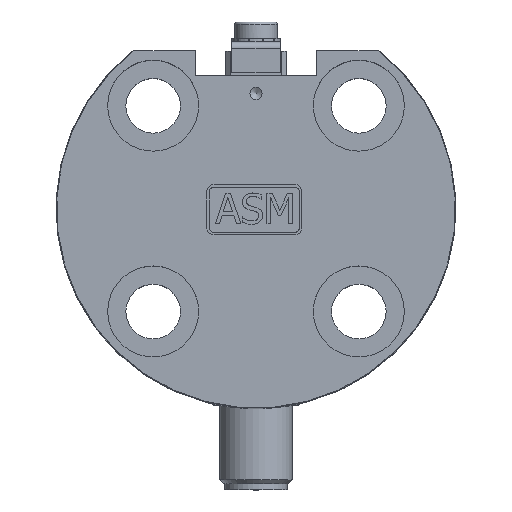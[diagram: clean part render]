
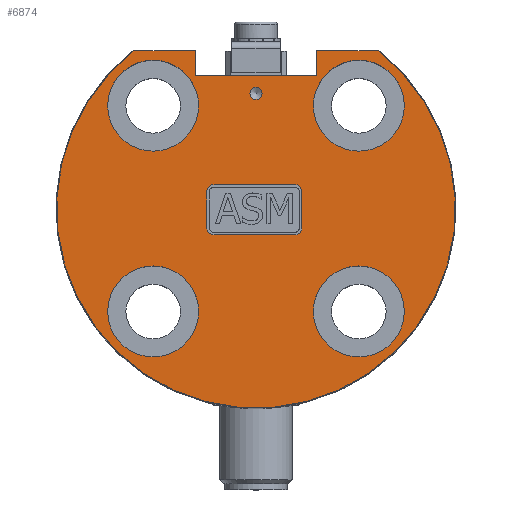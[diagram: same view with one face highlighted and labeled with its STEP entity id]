
A CAD part, top view. The second image highlights one B-rep face of the part: STEP entity #6874.
In plain terms, the highlighted planar face has unit normal (0, 0, 1).
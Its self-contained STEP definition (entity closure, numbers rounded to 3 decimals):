
#1650=CARTESIAN_POINT('',(-1.,19.0,23.));
#1651=VERTEX_POINT('',#1650);
#1652=CARTESIAN_POINT('',(0.,19.0,23.));
#1653=DIRECTION('',(0.0,0.0,1.0));
#1654=DIRECTION('',(1.0,0.0,0.0));
#1655=AXIS2_PLACEMENT_3D('',#1652,#1653,#1654);
#1656=CIRCLE('',#1655,1.0);
#1657=EDGE_CURVE('',#1651,#1651,#1656,.T.);
#1892=CARTESIAN_POINT('',(-10.0,26.0,23.));
#1893=VERTEX_POINT('',#1892);
#1900=CARTESIAN_POINT('',(-10.0,22.0,23.));
#1901=VERTEX_POINT('',#1900);
#1902=CARTESIAN_POINT('',(-10.0,26.0,23.));
#1903=DIRECTION('',(0.0,-1.0,0.0));
#1904=VECTOR('',#1903,4.0);
#1905=LINE('',#1902,#1904);
#1906=EDGE_CURVE('',#1893,#1901,#1905,.T.);
#1971=CARTESIAN_POINT('',(10.,22.0,23.));
#1972=VERTEX_POINT('',#1971);
#1979=CARTESIAN_POINT('',(10.,26.0,23.));
#1980=VERTEX_POINT('',#1979);
#1981=CARTESIAN_POINT('',(10.,22.0,23.));
#1982=DIRECTION('',(0.0,1.0,0.0));
#1983=VECTOR('',#1982,4.0);
#1984=LINE('',#1981,#1983);
#1985=EDGE_CURVE('',#1972,#1980,#1984,.T.);
#2010=CARTESIAN_POINT('',(-10.0,22.0,23.));
#2011=DIRECTION('',(1.0,0.0,0.0));
#2012=VECTOR('',#2011,20.0);
#2013=LINE('',#2010,#2012);
#2014=EDGE_CURVE('',#1901,#1972,#2013,.T.);
#2331=CARTESIAN_POINT('',(16.971,-9.471,23.));
#2332=VERTEX_POINT('',#2331);
#2333=CARTESIAN_POINT('',(16.971,-16.971,23.));
#2334=DIRECTION('',(0.0,0.0,1.0));
#2335=DIRECTION('',(0.0,-1.0,0.0));
#2336=AXIS2_PLACEMENT_3D('',#2333,#2334,#2335);
#2337=CIRCLE('',#2336,7.5);
#2338=EDGE_CURVE('',#2332,#2332,#2337,.T.);
#2433=CARTESIAN_POINT('',(-9.471,-16.971,23.));
#2434=VERTEX_POINT('',#2433);
#2435=CARTESIAN_POINT('',(-16.971,-16.971,23.));
#2436=DIRECTION('',(0.0,0.0,1.0));
#2437=DIRECTION('',(-1.0,0.0,0.0));
#2438=AXIS2_PLACEMENT_3D('',#2435,#2436,#2437);
#2439=CIRCLE('',#2438,7.5);
#2440=EDGE_CURVE('',#2434,#2434,#2439,.T.);
#2535=CARTESIAN_POINT('',(-16.971,9.471,23.));
#2536=VERTEX_POINT('',#2535);
#2537=CARTESIAN_POINT('',(-16.971,16.971,23.));
#2538=DIRECTION('',(0.0,0.0,1.0));
#2539=DIRECTION('',(0.0,1.0,0.0));
#2540=AXIS2_PLACEMENT_3D('',#2537,#2538,#2539);
#2541=CIRCLE('',#2540,7.5);
#2542=EDGE_CURVE('',#2536,#2536,#2541,.T.);
#2637=CARTESIAN_POINT('',(9.471,16.971,23.));
#2638=VERTEX_POINT('',#2637);
#2639=CARTESIAN_POINT('',(16.971,16.971,23.));
#2640=DIRECTION('',(0.0,0.0,1.0));
#2641=DIRECTION('',(1.0,0.0,0.0));
#2642=AXIS2_PLACEMENT_3D('',#2639,#2640,#2641);
#2643=CIRCLE('',#2642,7.5);
#2644=EDGE_CURVE('',#2638,#2638,#2643,.T.);
#6663=CARTESIAN_POINT('',(20.16,26.,23.));
#6664=VERTEX_POINT('',#6663);
#6680=CARTESIAN_POINT('',(20.16,26.,23.));
#6681=DIRECTION('',(-1.0,0.0,0.0));
#6682=VECTOR('',#6681,10.16);
#6683=LINE('',#6680,#6682);
#6684=EDGE_CURVE('',#6664,#1980,#6683,.T.);
#6728=CARTESIAN_POINT('',(-20.16,26.,23.));
#6729=VERTEX_POINT('',#6728);
#6736=CARTESIAN_POINT('',(-10.0,26.0,23.));
#6737=DIRECTION('',(-1.0,0.0,0.0));
#6738=VECTOR('',#6737,10.16);
#6739=LINE('',#6736,#6738);
#6740=EDGE_CURVE('',#1893,#6729,#6739,.T.);
#6765=CARTESIAN_POINT('',(0.,0.,23.));
#6766=DIRECTION('',(0.,0.,1.0));
#6767=DIRECTION('',(0.613,-0.79,0.));
#6768=AXIS2_PLACEMENT_3D('',#6765,#6766,#6767);
#6769=CIRCLE('',#6768,32.9);
#6770=EDGE_CURVE('',#6729,#6664,#6769,.T.);
#6776=CARTESIAN_POINT('',(36.375,26.0,23.));
#6777=DIRECTION('',(0.0,0.0,-1.0));
#6778=DIRECTION('',(-1.0,0.0,0.0));
#6779=AXIS2_PLACEMENT_3D('',#6776,#6777,#6778);
#6780=PLANE('',#6779);
#6781=ORIENTED_EDGE('',*,*,#6770,.T.);
#6782=ORIENTED_EDGE('',*,*,#6684,.T.);
#6783=ORIENTED_EDGE('',*,*,#1985,.F.);
#6784=ORIENTED_EDGE('',*,*,#2014,.F.);
#6785=ORIENTED_EDGE('',*,*,#1906,.F.);
#6786=ORIENTED_EDGE('',*,*,#6740,.T.);
#6787=EDGE_LOOP('',(#6781,#6782,#6783,#6784,#6785,#6786));
#6788=FACE_OUTER_BOUND('',#6787,.T.);
#6789=ORIENTED_EDGE('',*,*,#1657,.F.);
#6790=EDGE_LOOP('',(#6789));
#6791=FACE_BOUND('',#6790,.T.);
#6792=ORIENTED_EDGE('',*,*,#2338,.F.);
#6793=EDGE_LOOP('',(#6792));
#6794=FACE_BOUND('',#6793,.T.);
#6795=ORIENTED_EDGE('',*,*,#2440,.F.);
#6796=EDGE_LOOP('',(#6795));
#6797=FACE_BOUND('',#6796,.T.);
#6798=ORIENTED_EDGE('',*,*,#2542,.F.);
#6799=EDGE_LOOP('',(#6798));
#6800=FACE_BOUND('',#6799,.T.);
#6801=ORIENTED_EDGE('',*,*,#2644,.F.);
#6802=EDGE_LOOP('',(#6801));
#6803=FACE_BOUND('',#6802,.T.);
#6804=CARTESIAN_POINT('',(-8.126,-3.133,23.));
#6805=VERTEX_POINT('',#6804);
#6806=CARTESIAN_POINT('',(-8.126,2.758,23.));
#6807=VERTEX_POINT('',#6806);
#6808=CARTESIAN_POINT('',(-8.126,-3.133,23.));
#6809=DIRECTION('',(0.0,1.0,0.0));
#6810=VECTOR('',#6809,5.892);
#6811=LINE('',#6808,#6810);
#6812=EDGE_CURVE('',#6805,#6807,#6811,.T.);
#6813=ORIENTED_EDGE('',*,*,#6812,.T.);
#6814=CARTESIAN_POINT('',(-6.903,3.981,23.));
#6815=VERTEX_POINT('',#6814);
#6816=CARTESIAN_POINT('',(-6.903,2.758,23.));
#6817=DIRECTION('',(0.,0.,-1.0));
#6818=DIRECTION('',(0.,1.0,0.));
#6819=AXIS2_PLACEMENT_3D('',#6816,#6817,#6818);
#6820=CIRCLE('',#6819,1.223);
#6821=EDGE_CURVE('',#6807,#6815,#6820,.T.);
#6822=ORIENTED_EDGE('',*,*,#6821,.T.);
#6823=CARTESIAN_POINT('',(6.36,3.981,23.));
#6824=VERTEX_POINT('',#6823);
#6825=CARTESIAN_POINT('',(-6.903,3.981,23.));
#6826=DIRECTION('',(1.0,0.0,0.0));
#6827=VECTOR('',#6826,13.263);
#6828=LINE('',#6825,#6827);
#6829=EDGE_CURVE('',#6815,#6824,#6828,.T.);
#6830=ORIENTED_EDGE('',*,*,#6829,.T.);
#6831=CARTESIAN_POINT('',(7.582,2.758,23.));
#6832=VERTEX_POINT('',#6831);
#6833=CARTESIAN_POINT('',(6.36,2.758,23.));
#6834=DIRECTION('',(0.,0.,-1.0));
#6835=DIRECTION('',(1.0,0.,0.));
#6836=AXIS2_PLACEMENT_3D('',#6833,#6834,#6835);
#6837=CIRCLE('',#6836,1.223);
#6838=EDGE_CURVE('',#6824,#6832,#6837,.T.);
#6839=ORIENTED_EDGE('',*,*,#6838,.T.);
#6840=CARTESIAN_POINT('',(7.582,-3.133,23.));
#6841=VERTEX_POINT('',#6840);
#6842=CARTESIAN_POINT('',(7.582,2.758,23.));
#6843=DIRECTION('',(0.0,-1.0,0.0));
#6844=VECTOR('',#6843,5.892);
#6845=LINE('',#6842,#6844);
#6846=EDGE_CURVE('',#6832,#6841,#6845,.T.);
#6847=ORIENTED_EDGE('',*,*,#6846,.T.);
#6848=CARTESIAN_POINT('',(6.36,-4.356,23.));
#6849=VERTEX_POINT('',#6848);
#6850=CARTESIAN_POINT('',(6.36,-3.133,23.));
#6851=DIRECTION('',(0.,0.,-1.0));
#6852=DIRECTION('',(0.,-1.0,0.));
#6853=AXIS2_PLACEMENT_3D('',#6850,#6851,#6852);
#6854=CIRCLE('',#6853,1.223);
#6855=EDGE_CURVE('',#6841,#6849,#6854,.T.);
#6856=ORIENTED_EDGE('',*,*,#6855,.T.);
#6857=CARTESIAN_POINT('',(-6.903,-4.356,23.));
#6858=VERTEX_POINT('',#6857);
#6859=CARTESIAN_POINT('',(6.36,-4.356,23.));
#6860=DIRECTION('',(-1.0,0.0,0.0));
#6861=VECTOR('',#6860,13.263);
#6862=LINE('',#6859,#6861);
#6863=EDGE_CURVE('',#6849,#6858,#6862,.T.);
#6864=ORIENTED_EDGE('',*,*,#6863,.T.);
#6865=CARTESIAN_POINT('',(-6.903,-3.133,23.));
#6866=DIRECTION('',(0.,0.,-1.0));
#6867=DIRECTION('',(-1.0,0.,0.));
#6868=AXIS2_PLACEMENT_3D('',#6865,#6866,#6867);
#6869=CIRCLE('',#6868,1.223);
#6870=EDGE_CURVE('',#6858,#6805,#6869,.T.);
#6871=ORIENTED_EDGE('',*,*,#6870,.T.);
#6872=EDGE_LOOP('',(#6813,#6822,#6830,#6839,#6847,#6856,#6864,#6871));
#6873=FACE_BOUND('',#6872,.T.);
#6874=ADVANCED_FACE('',(#6788,#6791,#6794,#6797,#6800,#6803,#6873),#6780,.F.);
